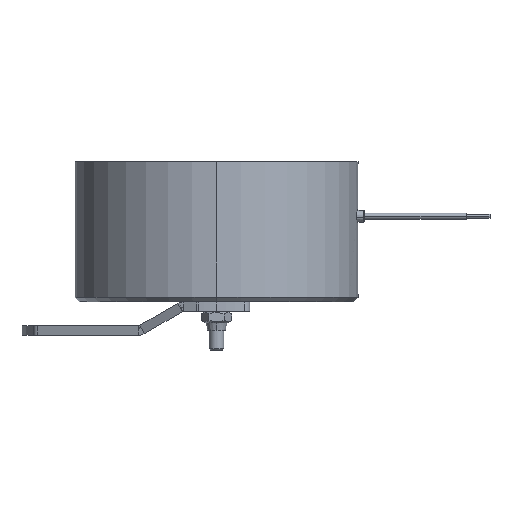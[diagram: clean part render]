
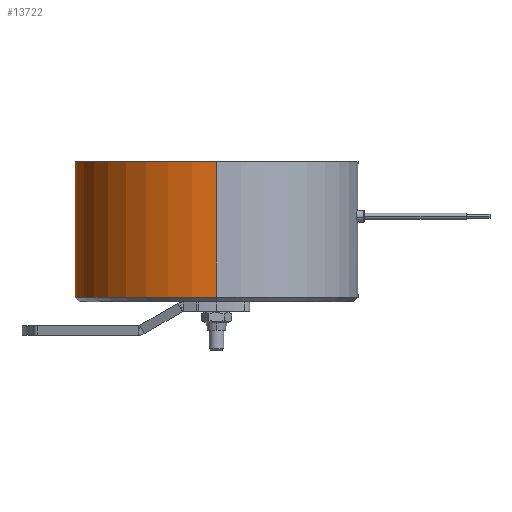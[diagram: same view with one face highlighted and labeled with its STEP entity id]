
A CAD part, left-side view. The second image highlights one B-rep face of the part: STEP entity #13722.
In plain terms, the highlighted cylindrical face has radius 29.75 mm (diameter 59.5 mm), a partial arc.
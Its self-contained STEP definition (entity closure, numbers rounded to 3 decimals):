
#166 = EDGE_CURVE ( 'NONE', #12238, #20746, #18694, .T. ) ;
#1201 = EDGE_CURVE ( 'NONE', #20746, #24224, #7189, .T. ) ;
#1433 = CARTESIAN_POINT ( 'NONE',  ( 29.75, 0., 29.5 ) ) ;
#1570 = AXIS2_PLACEMENT_3D ( 'NONE', #13326, #6006, #19502 ) ;
#1709 = CARTESIAN_POINT ( 'NONE',  ( -29.75, 0., 29.5 ) ) ;
#1846 = CARTESIAN_POINT ( 'NONE',  ( 29.75, 0., 31.573 ) ) ;
#1956 = CARTESIAN_POINT ( 'NONE',  ( 0., 0., 31.573 ) ) ;
#2894 = VERTEX_POINT ( 'NONE', #1433 ) ;
#3146 = VECTOR ( 'NONE', #17126, 1000. ) ;
#3304 = EDGE_CURVE ( 'NONE', #2894, #24224, #4549, .T. ) ;
#3599 = AXIS2_PLACEMENT_3D ( 'NONE', #15686, #10142, #13557 ) ;
#3811 = FACE_OUTER_BOUND ( 'NONE', #6446, .T. ) ;
#4327 = ORIENTED_EDGE ( 'NONE', *, *, #3304, .F. ) ;
#4549 = CIRCLE ( 'NONE', #1570, 29.75 ) ;
#5673 = ORIENTED_EDGE ( 'NONE', *, *, #1201, .T. ) ;
#5821 = LINE ( 'NONE', #1846, #20516 ) ;
#6006 = DIRECTION ( 'NONE',  ( 0., 0., 1. ) ) ;
#6446 = EDGE_LOOP ( 'NONE', ( #19450, #5673, #4327, #12128 ) ) ;
#7189 = LINE ( 'NONE', #21280, #3146 ) ;
#9868 = DIRECTION ( 'NONE',  ( 1., 0., 0. ) ) ;
#9997 = CYLINDRICAL_SURFACE ( 'NONE', #15037, 29.75 ) ;
#10142 = DIRECTION ( 'NONE',  ( 0., 0., 1. ) ) ;
#11587 = EDGE_CURVE ( 'NONE', #12238, #2894, #5821, .T. ) ;
#12128 = ORIENTED_EDGE ( 'NONE', *, *, #11587, .F. ) ;
#12238 = VERTEX_POINT ( 'NONE', #17575 ) ;
#13326 = CARTESIAN_POINT ( 'NONE',  ( 0., 0., 29.5 ) ) ;
#13557 = DIRECTION ( 'NONE',  ( 1., 0., 0. ) ) ;
#13722 = ADVANCED_FACE ( 'NONE', ( #3811 ), #9997, .T. ) ;
#14034 = DIRECTION ( 'NONE',  ( 0., 0., 1. ) ) ;
#15037 = AXIS2_PLACEMENT_3D ( 'NONE', #1956, #14034, #9868 ) ;
#15686 = CARTESIAN_POINT ( 'NONE',  ( 0., 0., 1. ) ) ;
#17126 = DIRECTION ( 'NONE',  ( 0., 0., 1. ) ) ;
#17575 = CARTESIAN_POINT ( 'NONE',  ( 29.75, 0., 1. ) ) ;
#18694 = CIRCLE ( 'NONE', #3599, 29.75 ) ;
#19450 = ORIENTED_EDGE ( 'NONE', *, *, #166, .T. ) ;
#19502 = DIRECTION ( 'NONE',  ( 1., 0., 0. ) ) ;
#20516 = VECTOR ( 'NONE', #24245, 1000. ) ;
#20746 = VERTEX_POINT ( 'NONE', #21121 ) ;
#21121 = CARTESIAN_POINT ( 'NONE',  ( -29.75, 0., 1. ) ) ;
#21280 = CARTESIAN_POINT ( 'NONE',  ( -29.75, 0., 31.573 ) ) ;
#24224 = VERTEX_POINT ( 'NONE', #1709 ) ;
#24245 = DIRECTION ( 'NONE',  ( 0., 0., 1. ) ) ;
